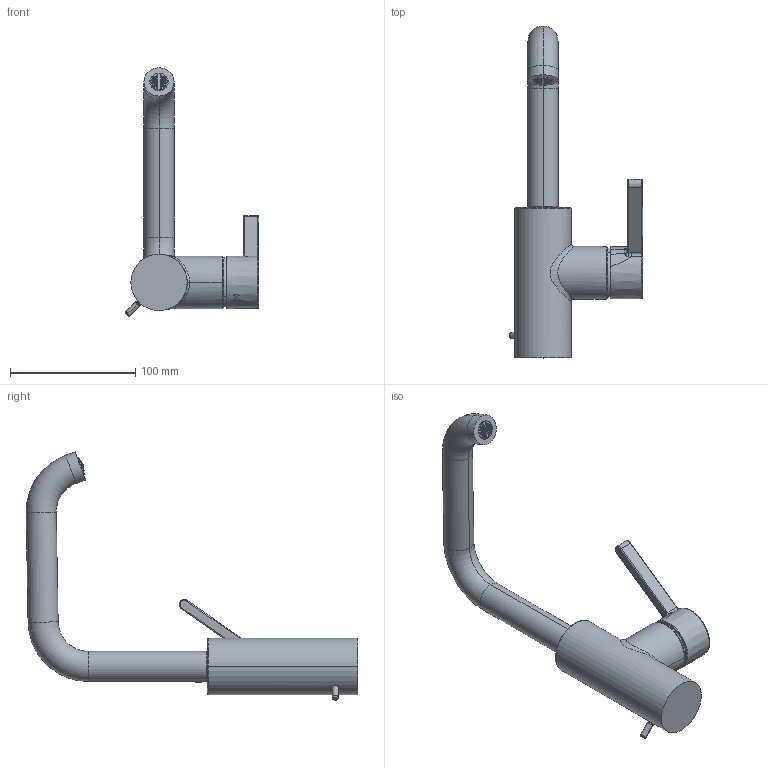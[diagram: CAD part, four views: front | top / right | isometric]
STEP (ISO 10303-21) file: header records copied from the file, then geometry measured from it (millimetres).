
FILE_DESCRIPTION((''),'2;1');
FILE_NAME('509380_SW0003','2018-08-22T',('LT980'),(''),'CREO PARAMETRIC BY PTC INC, 2016260','CREO PARAMETRIC BY PTC INC, 2016260','');
FILE_SCHEMA(('CONFIG_CONTROL_DESIGN'));
Length unit declared in the file: millimetre
Products named in the file (1): 509380_SW0003
Bounding box: 106.55 x 264.69 x 198.22 mm (x, y, z)
Volume: 411964.9 mm3; surface area: 53372.8 mm2
Topology: 1 solids, 1 shells, 639 faces, 1955 edges, 1353 vertices
Faces by surface type: plane 282, torus 276, cylinder 39, bspline 21, sphere 15, cone 6
Entity records: 29883 total; most frequent: CARTESIAN_POINT 13225, ORIENTED_EDGE 3908, DIRECTION 3054, EDGE_CURVE 1954, VERTEX_POINT 1353, AXIS2_PLACEMENT_3D 1275, B_SPLINE_CURVE_WITH_KNOTS 793, EDGE_LOOP 675
